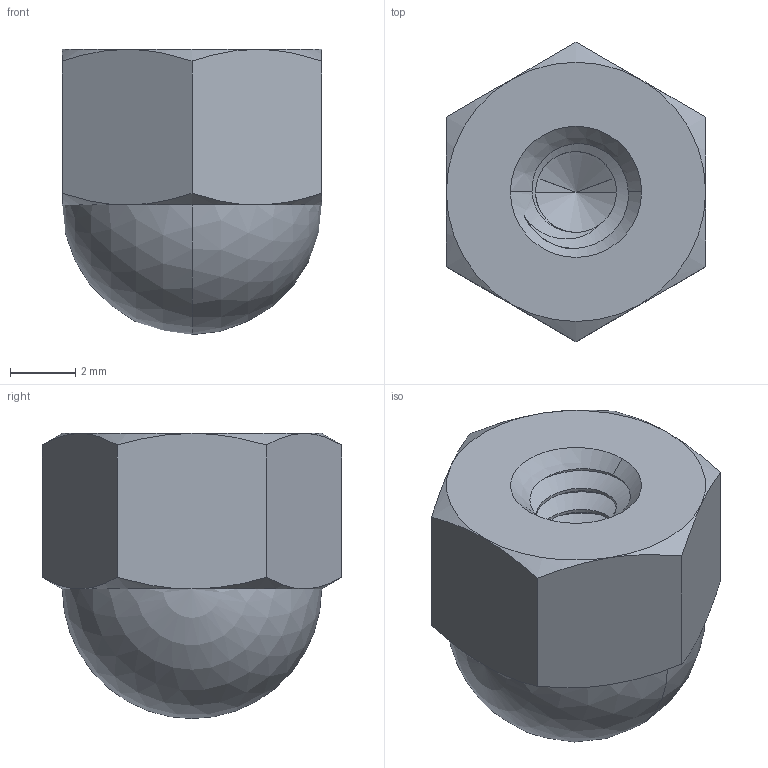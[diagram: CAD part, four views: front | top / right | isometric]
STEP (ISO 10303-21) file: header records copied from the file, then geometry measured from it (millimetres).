
FILE_DESCRIPTION (( 'STEP AP214' ), '1' );
FILE_NAME ('6-32_CAP_NUT.STEP', '2026-09-02T03:25:30', ( '' ), ( '' ), 'SwSTEP 2.0', 'SolidWorks 2025', '' );
FILE_SCHEMA (( 'AUTOMOTIVE_DESIGN' ));
Length unit declared in the file: inch
Products named in the file (1): 6-32_CAP_NUT
Bounding box: 7.94 x 9.17 x 8.73 mm (x, y, z)
Volume: 352.9 mm3; surface area: 354.9 mm2
Topology: 1 solids, 1 shells, 48 faces, 127 edges, 78 vertices
Faces by surface type: cylinder 20, cone 16, plane 8, sphere 2, bspline 2
Entity records: 2044 total; most frequent: CARTESIAN_POINT 1012, ORIENTED_EDGE 246, DIRECTION 175, EDGE_CURVE 123, VERTEX_POINT 78, AXIS2_PLACEMENT_3D 73, EDGE_LOOP 49, ADVANCED_FACE 48
